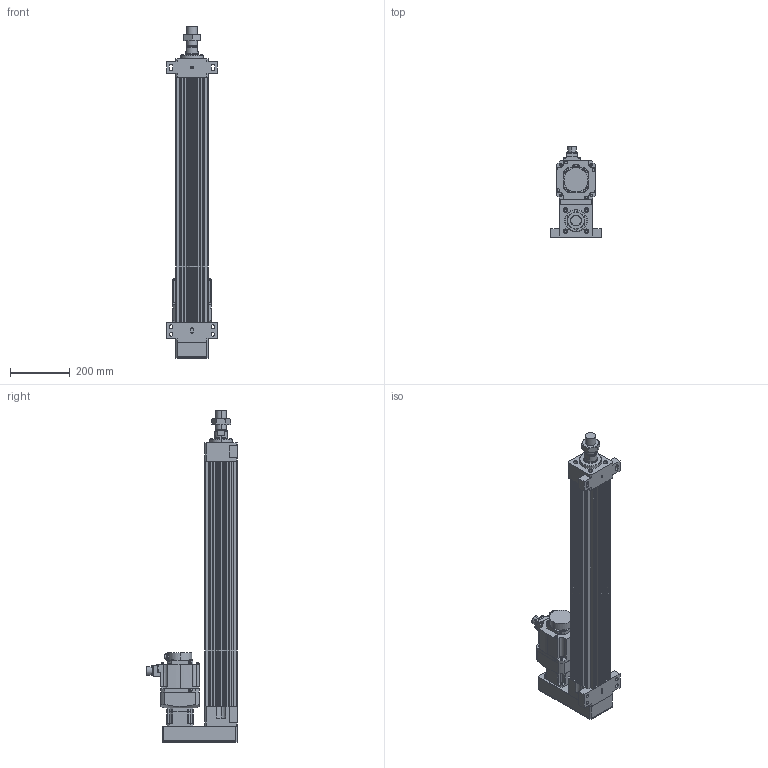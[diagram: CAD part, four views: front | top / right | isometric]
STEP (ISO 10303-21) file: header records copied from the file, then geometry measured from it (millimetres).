
FILE_DESCRIPTION (( 'STEP AP203' ), '1' );
FILE_NAME ('HES110NS(HS)-P650-W010G00-M-FFB.STEP', '2023-01-26T09:27:42', ( 'tms' ), ( '' ), 'SwSTEP 2.0', 'SolidWorks 2013', '' );
FILE_SCHEMA (( 'CONFIG_CONTROL_DESIGN' ));
Length unit declared in the file: millimetre
Products named in the file (8): HES110 ROD M ST650; M36X1.5P; AB090-003[HG-SR102B]; P0401301004; AB0901; HG-SR102; HES110-P650-G090-FFB; HES110NS(HS)-P650-W010G00-M-FFB
Assembly tree (7 placements, depth 3):
  HES110NS(HS)-P650-W010G00-M-FFB
    HES110-P650-G090-FFB
    HES110 ROD M ST650
    M36X1.5P
    AB090-003[HG-SR102B]
      AB0901
      P0401301004
    HG-SR102
Bounding box: 170 x 304.99 x 1113 mm (x, y, z)
Volume: 9640438.5 mm3; surface area: 1283367.5 mm2
Topology: 4 solids, 11 shells, 1083 faces, 2775 edges, 1806 vertices
Faces by surface type: cylinder 501, plane 500, cone 70, bspline 8, torus 4
Entity records: 34904 total; most frequent: CARTESIAN_POINT 6854, DIRECTION 5982, ORIENTED_EDGE 5502, EDGE_CURVE 2761, AXIS2_PLACEMENT_3D 2205, VERTEX_POINT 1806, VECTOR 1572, LINE 1572
